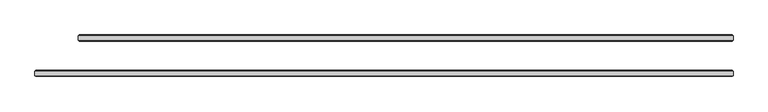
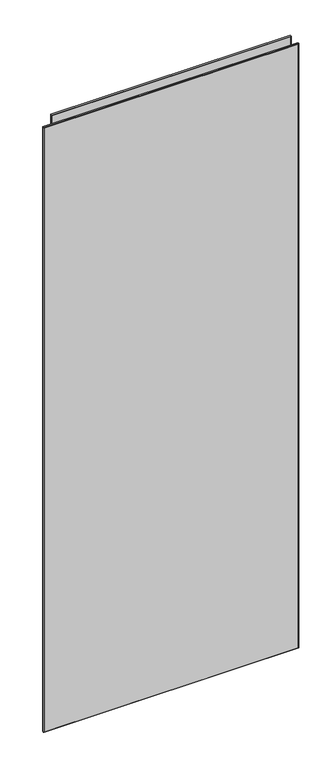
"""IFC4 building model written with IfcOpenShell, lengths in millimetres: plate geometry, 10-AMG-2-Панель двойной витраж10 : Стекло 10mm."""

from ifc_helpers import new_model, si_unit, origin, place, context, project, spatial, faceted_brep, source, transform, mapped, element, save


def plate_b7e87d28(model_context):
    return source(origin(), model_context, "Body", "Brep", [
        faceted_brep([(537.0, -31.4961653, 2758.0), (537.0, -24.5038347, 2758.0), (-571.0, -24.5038347, 2758.0), (-571.0, -31.4961653, 2758.0), (537.0, -24.5038347, -20.0), (537.0, -31.4961653, -20.0), (-571.0, -31.4961653, -20.0), (-571.0, -24.5038347, -20.0), (-569.4961653, -23.0, 2756.4961653), (535.4961653, -23.0, 2756.4961653), (535.4961653, -23.0, -18.5039422), (-569.4961653, -23.0, -18.5039422), (535.4961653, -33.0, 2756.4961653), (-569.4961653, -33.0, 2756.4961653), (-569.4961653, -33.0, -18.4961653), (535.4961653, -33.0, -18.4961653)], [[[0, 1, 2, 3]], [[4, 5, 6, 7]], [[8, 9, 10, 11]], [[3, 2, 7, 6]], [[12, 13, 14, 15]], [[1, 0, 5, 4]], [[1, 4, 10, 9]], [[5, 0, 12, 15]], [[0, 3, 13, 12]], [[2, 1, 9, 8]], [[7, 2, 8, 11]], [[3, 6, 14, 13]], [[6, 5, 15, 14]], [[4, 7, 11, 10]]]),
        faceted_brep([(537.0, 24.5038347, 2758.0), (537.0, 31.4961653, 2758.0), (-502.0, 31.4961653, 2758.0), (-502.0, 24.5038347, 2758.0), (537.0, 31.4961653, -20.0), (537.0, 24.5038347, -20.0), (-502.0, 24.5038347, -20.0), (-502.0, 31.4961653, -20.0), (-500.4961653, 33.0, 2756.4961653), (535.4961653, 33.0, 2756.4961653), (535.4961653, 33.0, -18.5039422), (-500.4961653, 33.0, -18.5039422), (535.4961653, 23.0, 2756.4961653), (-500.4961653, 23.0, 2756.4961653), (-500.4961653, 23.0, -18.4961653), (535.4961653, 23.0, -18.4961653)], [[[0, 1, 2, 3]], [[4, 5, 6, 7]], [[8, 9, 10, 11]], [[3, 2, 7, 6]], [[12, 13, 14, 15]], [[1, 0, 5, 4]], [[1, 4, 10, 9]], [[5, 0, 12, 15]], [[7, 2, 8, 11]], [[3, 6, 14, 13]], [[0, 3, 13, 12]], [[2, 1, 9, 8]], [[6, 5, 15, 14]], [[4, 7, 11, 10]]]),
    ])


if __name__ == "__main__":
    model = new_model("IFC4")
    model_context = context("Model", 3, world=origin())
    ifc_project = project(units=[si_unit("LENGTHUNIT", "METRE", prefix="MILLI")], contexts=[model_context])
    site = spatial("IfcSite", under=ifc_project)
    building = spatial("IfcBuilding", under=site)
    placement = place(None, origin())
    plate_shape = plate_b7e87d28(model_context)
    element("IfcPlate", 1, ObjectType="10-AMG-2-Панель двойной витраж10 : Стекло 10mm", at=placement, inside=building, context=model_context, shape_type="MappedRepresentation", body=[
        mapped(plate_shape, transform((0.0, 0.0, 0.0), x_axis=(1.0, 0.0, 0.0), y_axis=(0.0, 1.0, 0.0), z_axis=(0.0, 0.0, 1.0))),
    ])
    save(model, "model.ifc")
